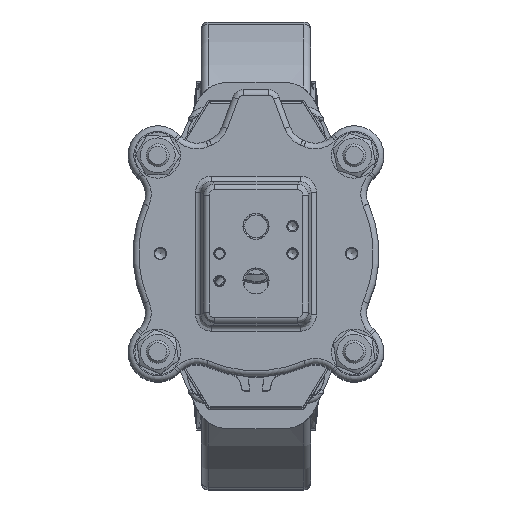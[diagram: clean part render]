
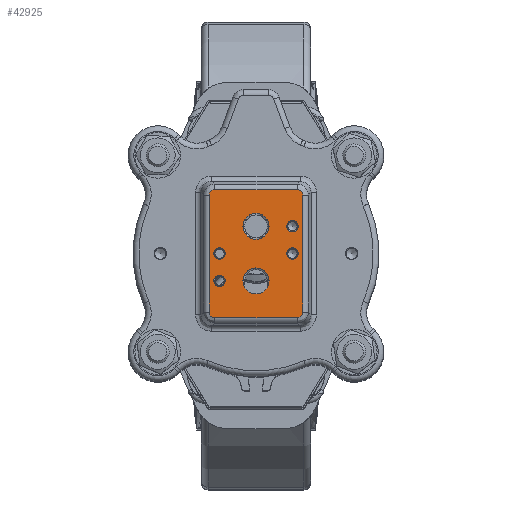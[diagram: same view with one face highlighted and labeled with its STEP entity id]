
A CAD part, top view. The second image highlights one B-rep face of the part: STEP entity #42925.
In plain terms, the highlighted planar face has unit normal (0, 0, 1).
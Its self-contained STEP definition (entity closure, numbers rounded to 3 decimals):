
#399=ELLIPSE('',#46030,2.673,2.5);
#400=ELLIPSE('',#46031,2.673,2.5);
#401=ELLIPSE('',#46032,2.673,2.5);
#402=ELLIPSE('',#46033,2.673,2.5);
#2125=FACE_BOUND('',#12550,.T.);
#2126=FACE_BOUND('',#12551,.T.);
#2127=FACE_BOUND('',#12552,.T.);
#2128=FACE_BOUND('',#12553,.T.);
#2129=FACE_BOUND('',#12554,.T.);
#2130=FACE_BOUND('',#12555,.T.);
#2490=PLANE('',#46029);
#3599=LINE('',#66259,#6333);
#3600=LINE('',#66263,#6334);
#3601=LINE('',#66267,#6335);
#3602=LINE('',#66270,#6336);
#6333=VECTOR('',#52209,10.);
#6334=VECTOR('',#52212,10.);
#6335=VECTOR('',#52215,10.);
#6336=VECTOR('',#52218,10.);
#9807=FACE_OUTER_BOUND('',#12549,.T.);
#12549=EDGE_LOOP('',(#30339,#30340,#30341,#30342,#30343,#30344,#30345,#30346));
#12550=EDGE_LOOP('',(#30347,#30348));
#12551=EDGE_LOOP('',(#30349,#30350));
#12552=EDGE_LOOP('',(#30351));
#12553=EDGE_LOOP('',(#30352));
#12554=EDGE_LOOP('',(#30353));
#12555=EDGE_LOOP('',(#30354));
#15411=CIRCLE('',#45899,5.723);
#15412=CIRCLE('',#45900,5.723);
#15414=CIRCLE('',#45903,5.723);
#15415=CIRCLE('',#45904,5.723);
#15506=CIRCLE('',#46028,2.5);
#15507=CIRCLE('',#46034,2.5);
#15508=CIRCLE('',#46035,2.5);
#15509=CIRCLE('',#46036,2.5);
#18325=VERTEX_POINT('',#65564);
#18326=VERTEX_POINT('',#65566);
#18327=VERTEX_POINT('',#65571);
#18328=VERTEX_POINT('',#65573);
#18429=VERTEX_POINT('',#66251);
#18430=VERTEX_POINT('',#66255);
#18431=VERTEX_POINT('',#66256);
#18432=VERTEX_POINT('',#66258);
#18433=VERTEX_POINT('',#66260);
#18434=VERTEX_POINT('',#66262);
#18435=VERTEX_POINT('',#66264);
#18436=VERTEX_POINT('',#66266);
#18437=VERTEX_POINT('',#66268);
#18438=VERTEX_POINT('',#66271);
#18439=VERTEX_POINT('',#66273);
#18440=VERTEX_POINT('',#66275);
#22775=EDGE_CURVE('',#18326,#18325,#15411,.T.);
#22776=EDGE_CURVE('',#18325,#18326,#15412,.T.);
#22779=EDGE_CURVE('',#18328,#18327,#15414,.T.);
#22780=EDGE_CURVE('',#18327,#18328,#15415,.T.);
#22916=EDGE_CURVE('',#18429,#18429,#15506,.T.);
#22917=EDGE_CURVE('',#18430,#18431,#399,.T.);
#22918=EDGE_CURVE('',#18432,#18430,#3599,.T.);
#22919=EDGE_CURVE('',#18433,#18432,#400,.T.);
#22920=EDGE_CURVE('',#18434,#18433,#3600,.T.);
#22921=EDGE_CURVE('',#18435,#18434,#401,.T.);
#22922=EDGE_CURVE('',#18436,#18435,#3601,.T.);
#22923=EDGE_CURVE('',#18437,#18436,#402,.T.);
#22924=EDGE_CURVE('',#18431,#18437,#3602,.T.);
#22925=EDGE_CURVE('',#18438,#18438,#15507,.T.);
#22926=EDGE_CURVE('',#18439,#18439,#15508,.T.);
#22927=EDGE_CURVE('',#18440,#18440,#15509,.T.);
#30339=ORIENTED_EDGE('',*,*,#22917,.F.);
#30340=ORIENTED_EDGE('',*,*,#22918,.F.);
#30341=ORIENTED_EDGE('',*,*,#22919,.F.);
#30342=ORIENTED_EDGE('',*,*,#22920,.F.);
#30343=ORIENTED_EDGE('',*,*,#22921,.F.);
#30344=ORIENTED_EDGE('',*,*,#22922,.F.);
#30345=ORIENTED_EDGE('',*,*,#22923,.F.);
#30346=ORIENTED_EDGE('',*,*,#22924,.F.);
#30347=ORIENTED_EDGE('',*,*,#22775,.T.);
#30348=ORIENTED_EDGE('',*,*,#22776,.T.);
#30349=ORIENTED_EDGE('',*,*,#22779,.T.);
#30350=ORIENTED_EDGE('',*,*,#22780,.T.);
#30351=ORIENTED_EDGE('',*,*,#22925,.F.);
#30352=ORIENTED_EDGE('',*,*,#22926,.F.);
#30353=ORIENTED_EDGE('',*,*,#22927,.F.);
#30354=ORIENTED_EDGE('',*,*,#22916,.F.);
#42925=ADVANCED_FACE('',(#9807,#2125,#2126,#2127,#2128,#2129,#2130),#2490,
 .F.);
#45899=AXIS2_PLACEMENT_3D('',#65567,#51917,#51918);
#45900=AXIS2_PLACEMENT_3D('',#65568,#51919,#51920);
#45903=AXIS2_PLACEMENT_3D('',#65574,#51926,#51927);
#45904=AXIS2_PLACEMENT_3D('',#65575,#51928,#51929);
#46028=AXIS2_PLACEMENT_3D('',#66253,#52203,#52204);
#46029=AXIS2_PLACEMENT_3D('',#66254,#52205,#52206);
#46030=AXIS2_PLACEMENT_3D('',#66257,#52207,#52208);
#46031=AXIS2_PLACEMENT_3D('',#66261,#52210,#52211);
#46032=AXIS2_PLACEMENT_3D('',#66265,#52213,#52214);
#46033=AXIS2_PLACEMENT_3D('',#66269,#52216,#52217);
#46034=AXIS2_PLACEMENT_3D('',#66272,#52219,#52220);
#46035=AXIS2_PLACEMENT_3D('',#66274,#52221,#52222);
#46036=AXIS2_PLACEMENT_3D('',#66276,#52223,#52224);
#51917=DIRECTION('center_axis',(0.,0.,
-1.));
#51918=DIRECTION('ref_axis',(0.,1.,0.));
#51919=DIRECTION('center_axis',(0.,0.,
-1.));
#51920=DIRECTION('ref_axis',(0.,1.,0.));
#51926=DIRECTION('center_axis',(0.,0.,
-1.));
#51927=DIRECTION('ref_axis',(0.,1.,0.));
#51928=DIRECTION('center_axis',(0.,0.,
-1.));
#51929=DIRECTION('ref_axis',(0.,1.,0.));
#52203=DIRECTION('center_axis',(0.,0.,
1.));
#52204=DIRECTION('ref_axis',(0.,-1.,0.));
#52205=DIRECTION('center_axis',(0.,0.,
-1.));
#52206=DIRECTION('ref_axis',(0.,-1.,0.));
#52207=DIRECTION('center_axis',(0.,0.,
-1.));
#52208=DIRECTION('ref_axis',(0.707,-0.707,0.));
#52209=DIRECTION('',(0.,-1.,0.));
#52210=DIRECTION('center_axis',(0.,0.,
-1.));
#52211=DIRECTION('ref_axis',(0.707,0.707,0.));
#52212=DIRECTION('',(1.,0.,0.));
#52213=DIRECTION('center_axis',(0.,0.,
-1.));
#52214=DIRECTION('ref_axis',(-0.707,0.707,0.));
#52215=DIRECTION('',(0.,1.,0.));
#52216=DIRECTION('center_axis',(0.,0.,
-1.));
#52217=DIRECTION('ref_axis',(-0.707,-0.707,0.));
#52218=DIRECTION('',(-1.,0.,0.));
#52219=DIRECTION('center_axis',(0.,0.,
1.));
#52220=DIRECTION('ref_axis',(0.,-1.,0.));
#52221=DIRECTION('center_axis',(0.,0.,
1.));
#52222=DIRECTION('ref_axis',(0.,-1.,0.));
#52223=DIRECTION('center_axis',(0.,0.,
1.));
#52224=DIRECTION('ref_axis',(0.,-1.,0.));
#65564=CARTESIAN_POINT('',(0.,-17.723,603.));
#65566=CARTESIAN_POINT('',(0.,-6.278,603.));
#65567=CARTESIAN_POINT('Origin',(0.,-12.,
603.));
#65568=CARTESIAN_POINT('Origin',(0.,-12.,
603.));
#65571=CARTESIAN_POINT('',(0.,6.277,603.));
#65573=CARTESIAN_POINT('',(0.,17.722,603.));
#65574=CARTESIAN_POINT('Origin',(0.,12.,
603.));
#65575=CARTESIAN_POINT('Origin',(0.,12.,
603.));
#66251=CARTESIAN_POINT('',(-16.,-9.5,603.));
#66253=CARTESIAN_POINT('Origin',(-16.,-12.,603.));
#66254=CARTESIAN_POINT('Origin',(0.,0.,
603.));
#66255=CARTESIAN_POINT('',(20.582,-25.667,603.));
#66256=CARTESIAN_POINT('',(18.167,-28.082,603.));
#66257=CARTESIAN_POINT('Origin',(17.993,-25.493,603.));
#66258=CARTESIAN_POINT('',(20.582,25.667,603.));
#66259=CARTESIAN_POINT('',(20.582,-15.,603.));
#66260=CARTESIAN_POINT('',(18.167,28.082,603.));
#66261=CARTESIAN_POINT('Origin',(17.993,25.493,603.));
#66262=CARTESIAN_POINT('',(-18.167,28.082,603.));
#66263=CARTESIAN_POINT('',(11.25,28.082,603.));
#66264=CARTESIAN_POINT('',(-20.582,25.667,603.));
#66265=CARTESIAN_POINT('Origin',(-17.993,25.493,603.));
#66266=CARTESIAN_POINT('',(-20.582,-25.667,603.));
#66267=CARTESIAN_POINT('',(-20.582,15.,603.));
#66268=CARTESIAN_POINT('',(-18.167,-28.082,603.));
#66269=CARTESIAN_POINT('Origin',(-17.993,-25.493,603.));
#66270=CARTESIAN_POINT('',(-11.25,-28.082,603.));
#66271=CARTESIAN_POINT('',(-16.,2.5,603.));
#66272=CARTESIAN_POINT('Origin',(-16.,0.,
603.));
#66273=CARTESIAN_POINT('',(16.,14.5,603.));
#66274=CARTESIAN_POINT('Origin',(16.,12.,603.));
#66275=CARTESIAN_POINT('',(16.,2.5,603.));
#66276=CARTESIAN_POINT('Origin',(16.,0.,
603.));
